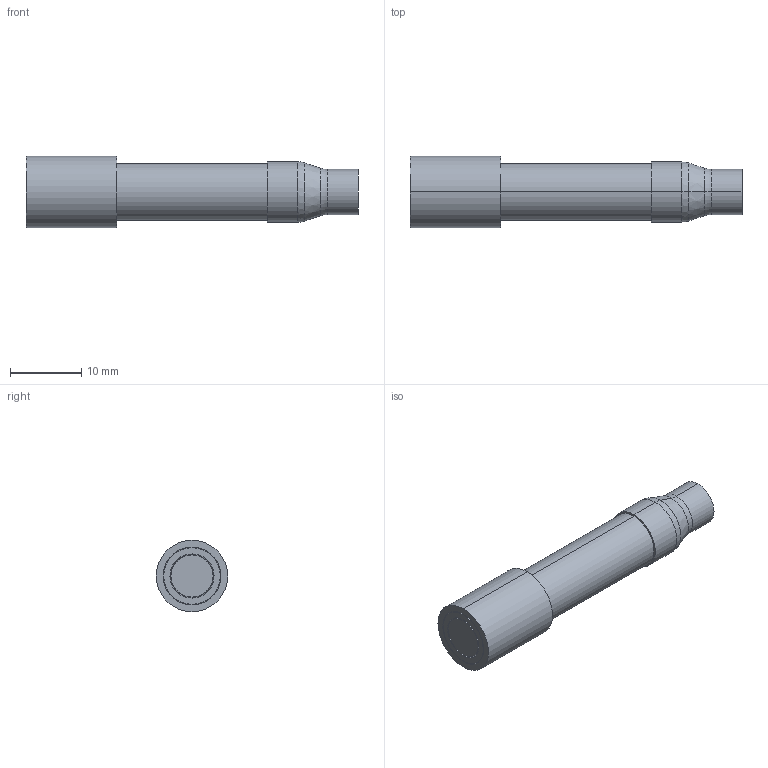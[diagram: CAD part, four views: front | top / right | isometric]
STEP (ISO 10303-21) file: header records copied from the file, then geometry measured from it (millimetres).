
FILE_DESCRIPTION (( 'STEP AP203' ), '1' );
FILE_NAME ('SL223B.STEP', '2016-12-15T22:56:42', ( '' ), ( '' ), 'SwSTEP 2.0', 'SolidWorks 2016', '' );
FILE_SCHEMA (( 'CONFIG_CONTROL_DESIGN' ));
Length unit declared in the file: inch
Products named in the file (12): 91375A072_91375A072; 095201_Default<As Machined>; 095112_Default<As Machined>; SL223B; 071074; 31203130021INHS SL4301_Default<As Machined>; 095513_Default<As Machined>; 071074-XXX; 111-01-001; 095113_Default<As Machined>; 095111_Default<As Machined>; 111-01-003_Default<As Machined>
Assembly tree (11 placements, depth 3):
  SL223B
    111-01-001
    095201_Default<As Machined>
    111-01-003_Default<As Machined>
    31203130021INHS SL4301_Default<As Machined>
    095113_Default<As Machined>
    095111_Default<As Machined>
    071074-XXX
      071074
    095112_Default<As Machined>
    095513_Default<As Machined>
    91375A072_91375A072
Bounding box: 46.55 x 10.01 x 10.01 mm (x, y, z)
Volume: 1770.1 mm3; surface area: 3965 mm2
Topology: 10 solids, 10 shells, 212 faces, 533 edges, 335 vertices
Faces by surface type: plane 124, cylinder 45, cone 33, torus 8, sphere 2
Entity records: 7768 total; most frequent: CARTESIAN_POINT 1397, DIRECTION 1064, ORIENTED_EDGE 1048, EDGE_CURVE 524, LINE 362, VECTOR 362, AXIS2_PLACEMENT_3D 351, VERTEX_POINT 332
